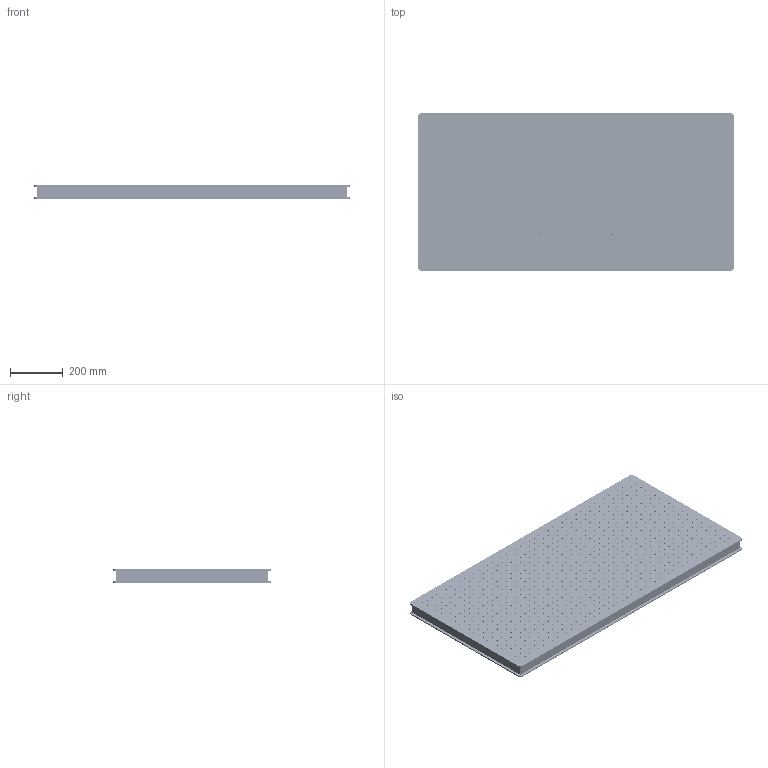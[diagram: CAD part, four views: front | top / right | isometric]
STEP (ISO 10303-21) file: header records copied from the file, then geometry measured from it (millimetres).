
FILE_DESCRIPTION (( 'STEP AP203' ), '1' );
FILE_NAME ('OTBB612-50 怢醱.STEP', '2019-05-09T08:35:41', ( 'User' ), ( 'User' ), 'SwSTEP 2.0', 'SolidWorks 2016', '' );
FILE_SCHEMA (( 'CONFIG_CONTROL_DESIGN' ));
Length unit declared in the file: millimetre
Products named in the file (1): OTBB612-50 怢醱
Bounding box: 1200 x 600 x 50 mm (x, y, z)
Surface area: 3126258.6 mm2 (no closed solid volume)
Topology: 0 solids, 30 shells, 2096 faces, 6504 edges, 4440 vertices
Faces by surface type: cylinder 2036, plane 60
Entity records: 79050 total; most frequent: DIRECTION 14770, CARTESIAN_POINT 13041, ORIENTED_EDGE 12648, EDGE_CURVE 6504, AXIS2_PLACEMENT_3D 6169, VERTEX_POINT 4440, EDGE_LOOP 4120, CIRCLE 4072
